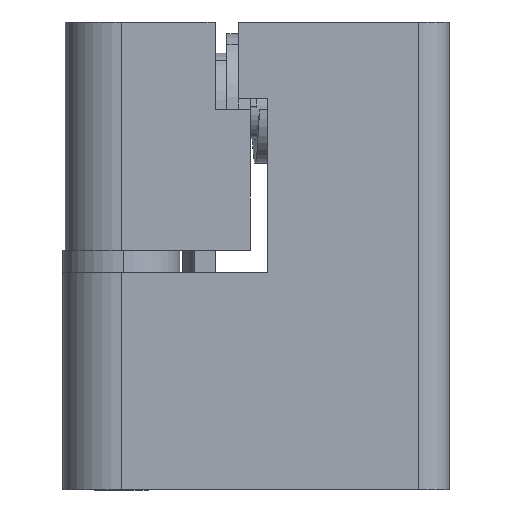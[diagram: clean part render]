
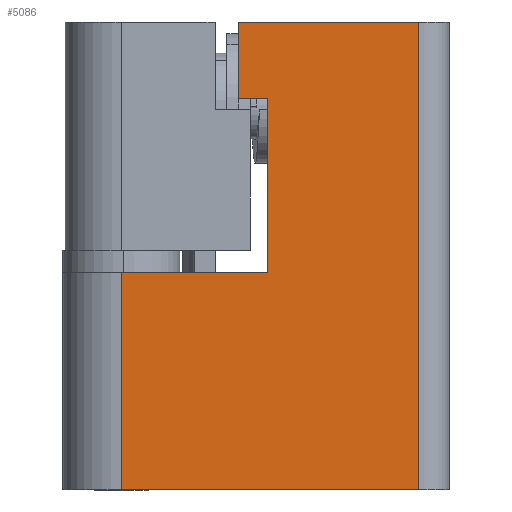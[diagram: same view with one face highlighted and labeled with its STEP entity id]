
A CAD part, left-side view. The second image highlights one B-rep face of the part: STEP entity #5086.
In plain terms, the highlighted planar face has unit normal (-1, 0, 0).
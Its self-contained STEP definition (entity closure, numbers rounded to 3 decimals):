
#15 = CARTESIAN_POINT ( 'NONE',  ( -5., -12.5, -1.4 ) ) ;
#36 = VECTOR ( 'NONE', #3297, 1000. ) ;
#67 = VERTEX_POINT ( 'NONE', #6799 ) ;
#133 = VERTEX_POINT ( 'NONE', #2846 ) ;
#166 = LINE ( 'NONE', #5957, #5964 ) ;
#490 = VERTEX_POINT ( 'NONE', #4288 ) ;
#554 = VECTOR ( 'NONE', #5989, 1000. ) ;
#583 = VECTOR ( 'NONE', #6063, 1000. ) ;
#619 = EDGE_CURVE ( 'NONE', #67, #4177, #6551, .T. ) ;
#762 = EDGE_LOOP ( 'NONE', ( #3150, #952, #3932, #1630, #4970, #5932, #2535, #2291 ) ) ;
#949 = DIRECTION ( 'NONE',  ( 1., 0., 0. ) ) ;
#952 = ORIENTED_EDGE ( 'NONE', *, *, #5015, .T. ) ;
#1322 = EDGE_CURVE ( 'NONE', #5656, #133, #4298, .T. ) ;
#1630 = ORIENTED_EDGE ( 'NONE', *, *, #619, .T. ) ;
#1781 = FACE_OUTER_BOUND ( 'NONE', #762, .T. ) ;
#1782 = EDGE_CURVE ( 'NONE', #4478, #490, #4469, .T. ) ;
#2065 = CARTESIAN_POINT ( 'NONE',  ( -5., 0., 20. ) ) ;
#2291 = ORIENTED_EDGE ( 'NONE', *, *, #3831, .T. ) ;
#2328 = LINE ( 'NONE', #6463, #6600 ) ;
#2535 = ORIENTED_EDGE ( 'NONE', *, *, #1322, .T. ) ;
#2679 = CARTESIAN_POINT ( 'NONE',  ( -5., -10., 20. ) ) ;
#2739 = CARTESIAN_POINT ( 'NONE',  ( -5., 0., -20. ) ) ;
#2846 = CARTESIAN_POINT ( 'NONE',  ( -5., -10., 13.5 ) ) ;
#2998 = VECTOR ( 'NONE', #6445, 1000. ) ;
#3058 = EDGE_CURVE ( 'NONE', #5656, #6048, #4529, .T. ) ;
#3110 = DIRECTION ( 'NONE',  ( 0., 0., -1. ) ) ;
#3147 = AXIS2_PLACEMENT_3D ( 'NONE', #2065, #949, #4860 ) ;
#3150 = ORIENTED_EDGE ( 'NONE', *, *, #1782, .T. ) ;
#3193 = DIRECTION ( 'NONE',  ( 0., 0., -1. ) ) ;
#3297 = DIRECTION ( 'NONE',  ( 0., -1., 0. ) ) ;
#3574 = LINE ( 'NONE', #4857, #554 ) ;
#3831 = EDGE_CURVE ( 'NONE', #133, #4478, #3574, .T. ) ;
#3850 = CARTESIAN_POINT ( 'NONE',  ( -5., -12.5, 13.5 ) ) ;
#3932 = ORIENTED_EDGE ( 'NONE', *, *, #6190, .T. ) ;
#3969 = DIRECTION ( 'NONE',  ( 0., 0., -1. ) ) ;
#4177 = VERTEX_POINT ( 'NONE', #4687 ) ;
#4199 = CARTESIAN_POINT ( 'NONE',  ( -5., -10., 13.5 ) ) ;
#4288 = CARTESIAN_POINT ( 'NONE',  ( -5., -12.5, -1.4 ) ) ;
#4298 = LINE ( 'NONE', #4199, #2998 ) ;
#4323 = PLANE ( 'NONE',  #3147 ) ;
#4469 = LINE ( 'NONE', #15, #5948 ) ;
#4478 = VERTEX_POINT ( 'NONE', #3850 ) ;
#4491 = CARTESIAN_POINT ( 'NONE',  ( -5., 0., -1.4 ) ) ;
#4529 = LINE ( 'NONE', #5484, #36 ) ;
#4687 = CARTESIAN_POINT ( 'NONE',  ( -5., -25.4, -20. ) ) ;
#4857 = CARTESIAN_POINT ( 'NONE',  ( -5., -12.5, 13.5 ) ) ;
#4860 = DIRECTION ( 'NONE',  ( 0., 1., 0. ) ) ;
#4970 = ORIENTED_EDGE ( 'NONE', *, *, #4973, .F. ) ;
#4973 = EDGE_CURVE ( 'NONE', #6048, #4177, #6783, .T. ) ;
#5015 = EDGE_CURVE ( 'NONE', #490, #5232, #2328, .T. ) ;
#5086 = ADVANCED_FACE ( 'NONE', ( #1781 ), #4323, .F. ) ;
#5232 = VERTEX_POINT ( 'NONE', #4491 ) ;
#5275 = VECTOR ( 'NONE', #3110, 1000. ) ;
#5484 = CARTESIAN_POINT ( 'NONE',  ( -5., 0., 20. ) ) ;
#5656 = VERTEX_POINT ( 'NONE', #2679 ) ;
#5932 = ORIENTED_EDGE ( 'NONE', *, *, #3058, .F. ) ;
#5948 = VECTOR ( 'NONE', #3969, 1000. ) ;
#5957 = CARTESIAN_POINT ( 'NONE',  ( -5., 0., 20. ) ) ;
#5964 = VECTOR ( 'NONE', #3193, 1000. ) ;
#5989 = DIRECTION ( 'NONE',  ( 0., -1., 0. ) ) ;
#6048 = VERTEX_POINT ( 'NONE', #6914 ) ;
#6063 = DIRECTION ( 'NONE',  ( 0., -1., 0. ) ) ;
#6190 = EDGE_CURVE ( 'NONE', #5232, #67, #166, .T. ) ;
#6445 = DIRECTION ( 'NONE',  ( 0., 0., -1. ) ) ;
#6463 = CARTESIAN_POINT ( 'NONE',  ( -5., 5., -1.4 ) ) ;
#6551 = LINE ( 'NONE', #2739, #583 ) ;
#6600 = VECTOR ( 'NONE', #7025, 1000. ) ;
#6783 = LINE ( 'NONE', #6974, #5275 ) ;
#6799 = CARTESIAN_POINT ( 'NONE',  ( -5., 0., -20. ) ) ;
#6914 = CARTESIAN_POINT ( 'NONE',  ( -5., -25.4, 20. ) ) ;
#6974 = CARTESIAN_POINT ( 'NONE',  ( -5., -25.4, 20. ) ) ;
#7025 = DIRECTION ( 'NONE',  ( 0., 1., 0. ) ) ;
